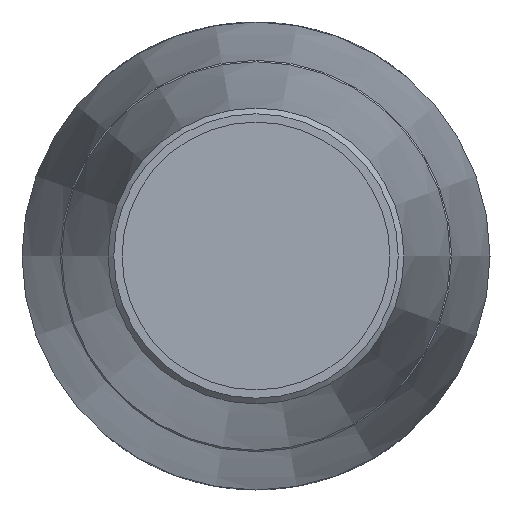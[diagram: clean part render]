
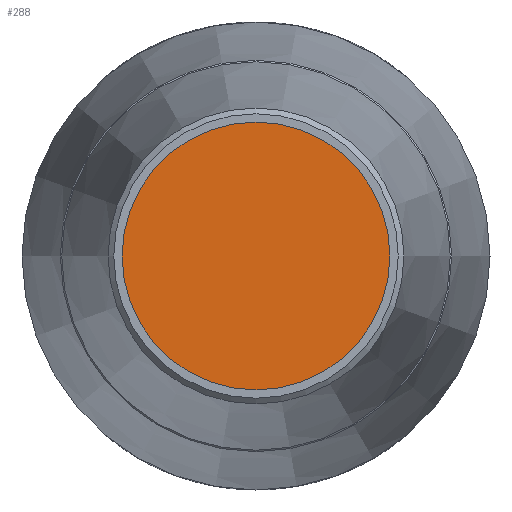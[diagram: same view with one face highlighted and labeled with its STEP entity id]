
A CAD part, left-side view. The second image highlights one B-rep face of the part: STEP entity #288.
In plain terms, the highlighted planar face has unit normal (-1, 0, 0).
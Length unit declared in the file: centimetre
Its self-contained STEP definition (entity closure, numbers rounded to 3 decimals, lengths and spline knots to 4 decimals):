
#42=PLANE('',#323);
#73=FACE_OUTER_BOUND('',#104,.T.);
#104=EDGE_LOOP('',(#210));
#132=CIRCLE('',#322,5.15);
#148=VERTEX_POINT('',#455);
#172=EDGE_CURVE('',#148,#148,#132,.T.);
#210=ORIENTED_EDGE('',*,*,#172,.T.);
#288=ADVANCED_FACE('',(#73),#42,.T.);
#322=AXIS2_PLACEMENT_3D('',#456,#383,#384);
#323=AXIS2_PLACEMENT_3D('',#457,#385,#386);
#383=DIRECTION('center_axis',(-1.,0.,0.));
#384=DIRECTION('ref_axis',(0.,0.,1.));
#385=DIRECTION('center_axis',(-1.,0.,0.));
#386=DIRECTION('ref_axis',(0.,0.,1.));
#455=CARTESIAN_POINT('',(-49.2,-5.15,0.));
#456=CARTESIAN_POINT('Origin',(-49.2,0.,0.));
#457=CARTESIAN_POINT('Origin',(-49.2,0.,0.));
